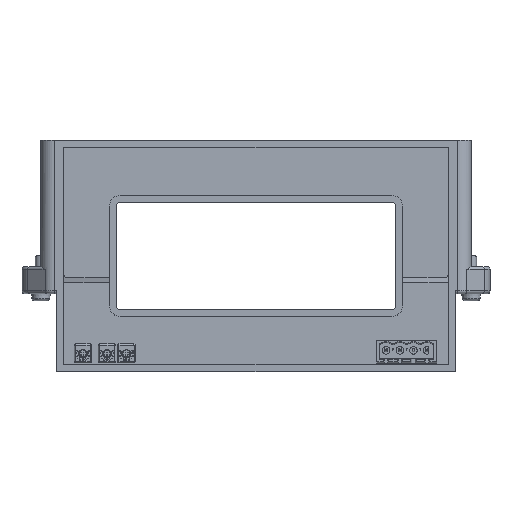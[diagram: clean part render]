
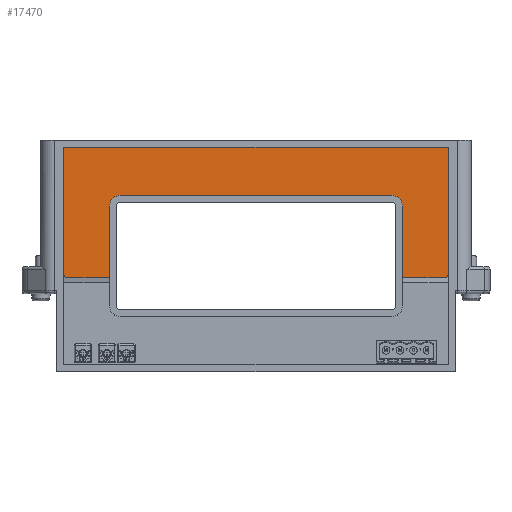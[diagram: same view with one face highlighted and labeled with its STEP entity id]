
A CAD part, top view. The second image highlights one B-rep face of the part: STEP entity #17470.
In plain terms, the highlighted planar face has unit normal (0, 0, 1).
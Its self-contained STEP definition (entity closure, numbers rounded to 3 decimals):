
#7260=CARTESIAN_POINT('',(71.5,49.5,24.9));
#7270=VERTEX_POINT('',#7260);
#7350=CARTESIAN_POINT('',(71.5,2.3,24.9));
#7360=VERTEX_POINT('',#7350);
#7390=CARTESIAN_POINT('',(71.5,0.,24.9));
#7400=DIRECTION('',(0.,1.,0.));
#7410=VECTOR('',#7400,1.);
#7420=LINE('',#7390,#7410);
#7430=EDGE_CURVE('',#7360,#7270,#7420,.T.);
#8740=CARTESIAN_POINT('',(-54.5,27.5,24.9));
#8750=VERTEX_POINT('',#8740);
#9150=CARTESIAN_POINT('',(-54.5,0.8,24.9));
#9160=VERTEX_POINT('',#9150);
#9190=CARTESIAN_POINT('',(-54.5,0.,24.9));
#9200=DIRECTION('',(0.,1.,0.));
#9210=VECTOR('',#9200,1.);
#9220=LINE('',#9190,#9210);
#9230=EDGE_CURVE('',#9160,#8750,#9220,.T.);
#9790=CARTESIAN_POINT('',(-70.,0.8,24.9));
#9800=VERTEX_POINT('',#9790);
#9830=CARTESIAN_POINT('',(0.,0.8,24.9));
#9840=DIRECTION('',(-1.,0.,0.));
#9850=VECTOR('',#9840,1.);
#9860=LINE('',#9830,#9850);
#9870=EDGE_CURVE('',#9160,#9800,#9860,.T.);
#11360=CARTESIAN_POINT('',(-71.5,49.5,24.9));
#11370=VERTEX_POINT('',#11360);
#11420=CARTESIAN_POINT('',(0.,49.5,24.9));
#11430=DIRECTION('',(-1.,0.,0.));
#11440=VECTOR('',#11430,1.);
#11450=LINE('',#11420,#11440);
#11460=EDGE_CURVE('',#7270,#11370,#11450,.T.);
#11600=CARTESIAN_POINT('',(-71.5,2.3,24.9));
#11610=VERTEX_POINT('',#11600);
#11640=CARTESIAN_POINT('',(-70.,2.3,24.9));
#11650=DIRECTION('',(0.,0.,1.));
#11660=DIRECTION('',(-1.,0.,0.));
#11670=AXIS2_PLACEMENT_3D('',#11640,#11650,#11660);
#11680=CIRCLE('',#11670,1.5);
#11690=EDGE_CURVE('',#11610,#9800,#11680,.T.);
#12030=CARTESIAN_POINT('',(54.5,27.5,24.9));
#12040=VERTEX_POINT('',#12030);
#12070=CARTESIAN_POINT('',(54.5,0.,24.9));
#12080=DIRECTION('',(0.,-1.,0.));
#12090=VECTOR('',#12080,1.);
#12100=LINE('',#12070,#12090);
#12110=CARTESIAN_POINT('',(54.5,0.8,24.9));
#12120=VERTEX_POINT('',#12110);
#12130=EDGE_CURVE('',#12040,#12120,#12100,.T.);
#12760=CARTESIAN_POINT('',(0.,0.8,24.9));
#12770=DIRECTION('',(1.,0.,0.));
#12780=VECTOR('',#12770,1.);
#12790=LINE('',#12760,#12780);
#12800=CARTESIAN_POINT('',(70.,0.8,24.9));
#12810=VERTEX_POINT('',#12800);
#12820=EDGE_CURVE('',#12120,#12810,#12790,.T.);
#14210=CARTESIAN_POINT('',(50.5,31.5,24.9));
#14220=VERTEX_POINT('',#14210);
#14250=CARTESIAN_POINT('',(50.5,27.5,24.9));
#14260=DIRECTION('',(0.,0.,1.));
#14270=DIRECTION('',(-1.,0.,0.));
#14280=AXIS2_PLACEMENT_3D('',#14250,#14260,#14270);
#14290=CIRCLE('',#14280,4.);
#14300=EDGE_CURVE('',#12040,#14220,#14290,.T.);
#16670=CARTESIAN_POINT('',(-50.5,31.5,24.9));
#16680=VERTEX_POINT('',#16670);
#16710=CARTESIAN_POINT('',(0.,31.5,24.9));
#16720=DIRECTION('',(1.,0.,0.));
#16730=VECTOR('',#16720,1.);
#16740=LINE('',#16710,#16730);
#16750=EDGE_CURVE('',#16680,#14220,#16740,.T.);
#17110=CARTESIAN_POINT('',(0.,40.5,24.9));
#17120=DIRECTION('',(0.,0.,1.));
#17130=DIRECTION('',(-1.,0.,0.));
#17140=AXIS2_PLACEMENT_3D('',#17110,#17120,#17130);
#17150=PLANE('',#17140);
#17160=ORIENTED_EDGE('',*,*,#7430,.T.);
#17170=CARTESIAN_POINT('',(70.,2.3,24.9));
#17180=DIRECTION('',(0.,0.,1.));
#17190=DIRECTION('',(-1.,0.,0.));
#17200=AXIS2_PLACEMENT_3D('',#17170,#17180,#17190);
#17210=CIRCLE('',#17200,1.5);
#17220=EDGE_CURVE('',#12810,#7360,#17210,.T.);
#17230=ORIENTED_EDGE('',*,*,#17220,.T.);
#17240=ORIENTED_EDGE('',*,*,#12820,.T.);
#17250=ORIENTED_EDGE('',*,*,#12130,.T.);
#17260=ORIENTED_EDGE('',*,*,#14300,.F.);
#17270=ORIENTED_EDGE('',*,*,#16750,.T.);
#17280=CARTESIAN_POINT('',(-50.5,27.5,24.9));
#17290=DIRECTION('',(0.,0.,1.));
#17300=DIRECTION('',(-1.,0.,0.));
#17310=AXIS2_PLACEMENT_3D('',#17280,#17290,#17300);
#17320=CIRCLE('',#17310,4.);
#17330=EDGE_CURVE('',#16680,#8750,#17320,.T.);
#17340=ORIENTED_EDGE('',*,*,#17330,.F.);
#17350=ORIENTED_EDGE('',*,*,#9230,.T.);
#17360=ORIENTED_EDGE('',*,*,#9870,.F.);
#17370=ORIENTED_EDGE('',*,*,#11690,.T.);
#17380=CARTESIAN_POINT('',(-71.5,0.,24.9));
#17390=DIRECTION('',(0.,-1.,0.));
#17400=VECTOR('',#17390,1.);
#17410=LINE('',#17380,#17400);
#17420=EDGE_CURVE('',#11370,#11610,#17410,.T.);
#17430=ORIENTED_EDGE('',*,*,#17420,.T.);
#17440=ORIENTED_EDGE('',*,*,#11460,.T.);
#17450=EDGE_LOOP('',(#17440,#17430,#17370,#17360,#17350,#17340,#17270,
#17260,#17250,#17240,#17230,#17160));
#17460=FACE_OUTER_BOUND('',#17450,.T.);
#17470=ADVANCED_FACE('',(#17460),#17150,.T.);
